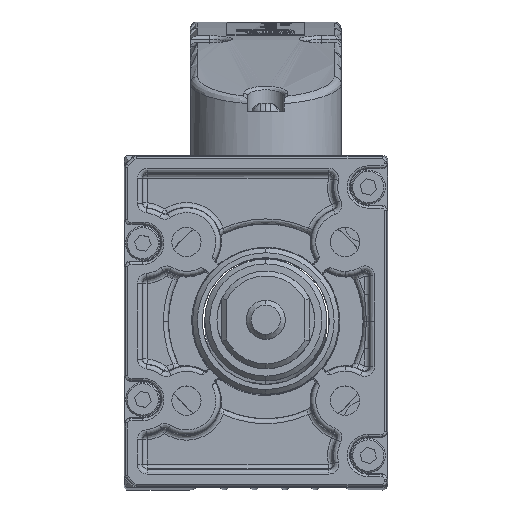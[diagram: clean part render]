
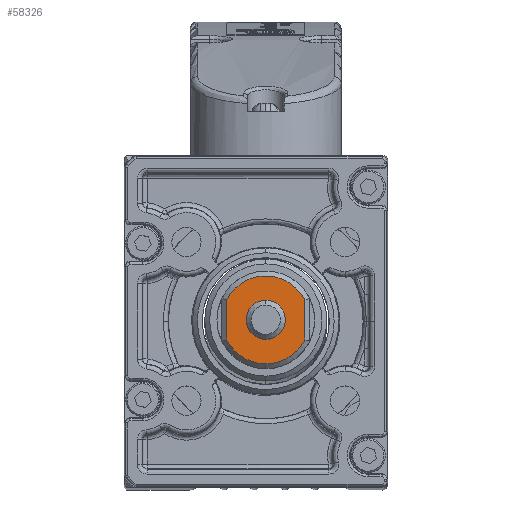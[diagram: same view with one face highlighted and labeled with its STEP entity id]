
A CAD part, top view. The second image highlights one B-rep face of the part: STEP entity #58326.
In plain terms, the highlighted planar face has unit normal (0, 0, 1) as drawn and (0, 0, -1) by its records, which use the part's own axes.
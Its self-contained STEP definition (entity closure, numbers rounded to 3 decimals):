
#8247 = VERTEX_POINT ( 'NONE', #63241 ) ;
#8249 = VERTEX_POINT ( 'NONE', #63242 ) ;
#8301 = VERTEX_POINT ( 'NONE', #63270 ) ;
#8321 = VERTEX_POINT ( 'NONE', #63281 ) ;
#8333 = VERTEX_POINT ( 'NONE', #63287 ) ;
#8335 = VERTEX_POINT ( 'NONE', #63288 ) ;
#8349 = VERTEX_POINT ( 'NONE', #63296 ) ;
#12413 = EDGE_CURVE ( 'NONE', #8321, #8333, #53651, .T. ) ;
#12453 = EDGE_CURVE ( 'NONE', #8349, #8335, #55135, .T. ) ;
#12570 = EDGE_CURVE ( 'NONE', #8247, #8301, #53729, .T. ) ;
#12572 = EDGE_CURVE ( 'NONE', #8301, #8249, #61295, .T. ) ;
#12574 = EDGE_CURVE ( 'NONE', #8249, #8321, #55110, .T. ) ;
#12577 = EDGE_CURVE ( 'NONE', #8333, #8247, #61303, .T. ) ;
#12579 = EDGE_CURVE ( 'NONE', #8335, #8349, #53732, .T. ) ;
#25577 = EDGE_LOOP ( 'NONE', ( #45213, #45214, #45211, #45212, #45209 ) ) ;
#25583 = EDGE_LOOP ( 'NONE', ( #45210, #45207 ) ) ;
#31953 = AXIS2_PLACEMENT_3D ( 'NONE', #50074, #50091, #50093 ) ;
#45207 = ORIENTED_EDGE ( 'NONE', *, *, #12579, .T. ) ;
#45209 = ORIENTED_EDGE ( 'NONE', *, *, #12577, .T. ) ;
#45210 = ORIENTED_EDGE ( 'NONE', *, *, #12453, .T. ) ;
#45211 = ORIENTED_EDGE ( 'NONE', *, *, #12574, .T. ) ;
#45212 = ORIENTED_EDGE ( 'NONE', *, *, #12413, .T. ) ;
#45213 = ORIENTED_EDGE ( 'NONE', *, *, #12570, .T. ) ;
#45214 = ORIENTED_EDGE ( 'NONE', *, *, #12572, .T. ) ;
#50074 = CARTESIAN_POINT ( 'NONE',  ( 10., 0., -623. ) ) ;
#50082 = FACE_OUTER_BOUND ( 'NONE', #25577, .T. ) ;
#50085 = FACE_BOUND ( 'NONE', #25583, .T. ) ;
#50087 = PLANE ( 'NONE',  #31953 ) ;
#50091 = DIRECTION ( 'NONE',  ( 0., 0., -1. ) ) ;
#50093 = DIRECTION ( 'NONE',  ( -1., 0., 0. ) ) ;
#53505 = AXIS2_PLACEMENT_3D ( 'NONE', #61152, #61153, #61154 ) ;
#53508 = AXIS2_PLACEMENT_3D ( 'NONE', #61100, #61101, #61102 ) ;
#53608 = VECTOR ( 'NONE', #61312, 1000. ) ;
#53651 = CIRCLE ( 'NONE', #53508, 9. ) ;
#53729 = CIRCLE ( 'NONE', #55093, 9. ) ;
#53732 = CIRCLE ( 'NONE', #55080, 4. ) ;
#54426 = AXIS2_PLACEMENT_3D ( 'NONE', #61309, #61310, #61311 ) ;
#55080 = AXIS2_PLACEMENT_3D ( 'NONE', #61313, #61314, #61315 ) ;
#55093 = AXIS2_PLACEMENT_3D ( 'NONE', #61305, #61306, #61307 ) ;
#55096 = VECTOR ( 'NONE', #61308, 1000. ) ;
#55110 = CIRCLE ( 'NONE', #54426, 9. ) ;
#55135 = CIRCLE ( 'NONE', #53505, 4. ) ;
#58326 = ADVANCED_FACE ( 'NONE', ( #50082, #50085 ), #50087, .T. ) ;
#61100 = CARTESIAN_POINT ( 'NONE',  ( 0., 0., -623. ) ) ;
#61101 = DIRECTION ( 'NONE',  ( 0., 0., -1. ) ) ;
#61102 = DIRECTION ( 'NONE',  ( -1., 0., 0. ) ) ;
#61152 = CARTESIAN_POINT ( 'NONE',  ( 0., 0., -623. ) ) ;
#61153 = DIRECTION ( 'NONE',  ( 0., 0., 1. ) ) ;
#61154 = DIRECTION ( 'NONE',  ( 1., 0., 0. ) ) ;
#61295 = LINE ( 'NONE', #61296, #55096 ) ;
#61296 = CARTESIAN_POINT ( 'NONE',  ( 4.359, 8., -623. ) ) ;
#61303 = LINE ( 'NONE', #61304, #53608 ) ;
#61304 = CARTESIAN_POINT ( 'NONE',  ( -4.359, -8., -623. ) ) ;
#61305 = CARTESIAN_POINT ( 'NONE',  ( 0., 0., -623. ) ) ;
#61306 = DIRECTION ( 'NONE',  ( 0., 0., -1. ) ) ;
#61307 = DIRECTION ( 'NONE',  ( -1., 0., 0. ) ) ;
#61308 = DIRECTION ( 'NONE',  ( 1., 0., 0. ) ) ;
#61309 = CARTESIAN_POINT ( 'NONE',  ( 0., 0., -623. ) ) ;
#61310 = DIRECTION ( 'NONE',  ( 0., 0., -1. ) ) ;
#61311 = DIRECTION ( 'NONE',  ( -1., 0., 0. ) ) ;
#61312 = DIRECTION ( 'NONE',  ( -1., 0., 0. ) ) ;
#61313 = CARTESIAN_POINT ( 'NONE',  ( 0., 0., -623. ) ) ;
#61314 = DIRECTION ( 'NONE',  ( 0., 0., 1. ) ) ;
#61315 = DIRECTION ( 'NONE',  ( 1., 0., 0. ) ) ;
#63241 = CARTESIAN_POINT ( 'NONE',  ( -4.123, -8., -623. ) ) ;
#63242 = CARTESIAN_POINT ( 'NONE',  ( 4.123, 8., -623. ) ) ;
#63270 = CARTESIAN_POINT ( 'NONE',  ( -4.123, 8., -623. ) ) ;
#63281 = CARTESIAN_POINT ( 'NONE',  ( 9., 0., -623. ) ) ;
#63287 = CARTESIAN_POINT ( 'NONE',  ( 4.123, -8., -623. ) ) ;
#63288 = CARTESIAN_POINT ( 'NONE',  ( -4., 0., -623. ) ) ;
#63296 = CARTESIAN_POINT ( 'NONE',  ( 4., 0., -623. ) ) ;
